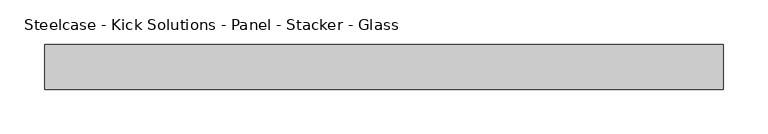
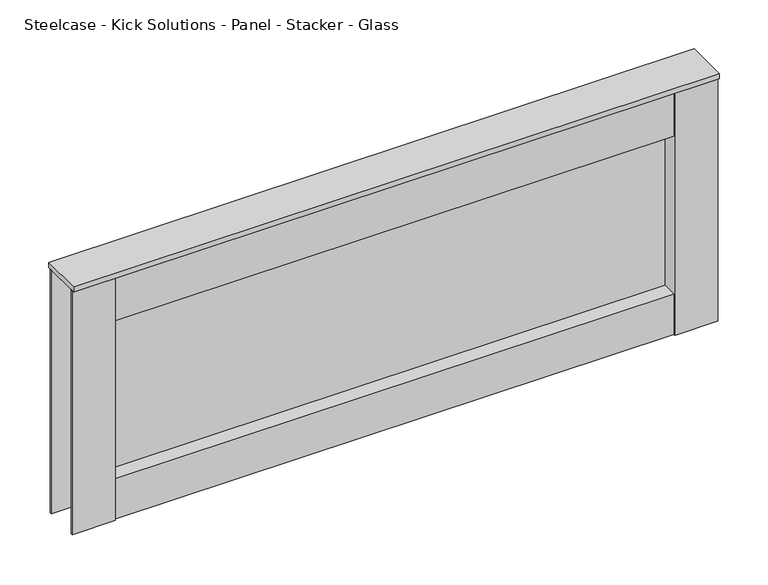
"""IFC4 building model written with IfcOpenShell, lengths in millimetres: furniture geometry, Steelcase - Kick Solutions - Panel - Stacker - Glass : 12H x 30W."""

from ifc_helpers import new_model, si_unit, frame, origin, place, context, project, spatial, polyline, outline, extrude, source, transform, mapped, element, save


def steelcase_kick_solutions_panel_stacker_glass_332c4ef9(model_context):
    return source(origin(), model_context, "Body", "SweptSolid", [
        extrude(outline(polyline([(711.2006661, -5.08), (711.2006661, -45.7200015), (50.8006646, -45.7200015), (50.8006646, -5.08), (711.2006661, -5.08)])), frame((0.0, 0.0, 1066.8), z_axis=(0.0, 0.0, 1.0), x_axis=(1.0, 0.0, 0.0)), (0.0, 0.0, 1.0), 50.6830951),
        extrude(outline(polyline([(711.2006661, -5.08), (711.2006661, -45.7200015), (50.8006646, -45.7200015), (50.8006646, -5.08), (711.2006661, -5.08)])), frame((0.0, 0.0, 1314.45), z_axis=(0.0, 0.0, 1.0), x_axis=(1.0, 0.0, 0.0)), (0.0, 0.0, 1.0), 57.15),
        extrude(outline(polyline([(50.8006646, -3.1743148), (50.8006646, -47.6243142), (0.0, -47.6243142), (0.0, -45.7200015), (47.7526646, -45.7200015), (47.7526646, -5.08), (0.0, -5.08), (0.0, -3.1743148), (50.8006646, -3.1743148)])), frame((0.0, 0.0, 1066.8), z_axis=(0.0, 0.0, 1.0), x_axis=(1.0, 0.0, 0.0)), (0.0, 0.0, 1.0), 304.8),
        extrude(outline(polyline([(711.2006661, -3.1743148), (762.0, -3.1743148), (762.0, -5.08), (714.2486661, -5.08), (714.2486661, -45.7200015), (762.0, -45.7200015), (762.0, -47.6243142), (711.2006661, -47.6243142), (711.2006661, -3.1743148)])), frame((0.0, 0.0, 1066.8), z_axis=(0.0, 0.0, 1.0), x_axis=(1.0, 0.0, 0.0)), (0.0, 0.0, 1.0), 304.8),
        extrude(outline(polyline([(711.2006661, -28.422537), (50.8006646, -28.422537), (50.8006646, -25.4), (711.2006661, -25.4), (711.2006661, -28.422537)])), frame((0.0, 0.0, 1117.4830951), z_axis=(0.0, 0.0, 1.0), x_axis=(1.0, 0.0, 0.0)), (0.0, 0.0, 1.0), 196.9669049),
        extrude(outline(polyline([(762.0, 0.0), (762.0, -50.8000015), (0.0, -50.8000015), (0.0, 0.0), (762.0, 0.0)])), frame((0.0, 0.0, 1371.6), z_axis=(0.0, 0.0, 1.0), x_axis=(1.0, 0.0, 0.0)), (0.0, 0.0, 1.0), 6.35),
    ])


if __name__ == "__main__":
    model = new_model("IFC4")
    model_context = context("Model", 3, world=origin())
    ifc_project = project(units=[si_unit("LENGTHUNIT", "METRE", prefix="MILLI")], contexts=[model_context])
    site = spatial("IfcSite", under=ifc_project)
    building = spatial("IfcBuilding", under=site)
    placement = place(None, origin())
    steelcase_kick_solutions_panel_stacker_glass_shape = steelcase_kick_solutions_panel_stacker_glass_332c4ef9(model_context)
    element("IfcFurniture", 1, ObjectType="Steelcase - Kick Solutions - Panel - Stacker - Glass : 12H x 30W", at=placement, inside=building, context=model_context, shape_type="MappedRepresentation", body=[
        mapped(steelcase_kick_solutions_panel_stacker_glass_shape, transform((0.0, 0.0, 0.0), x_axis=(1.0, 0.0, 0.0), y_axis=(0.0, 1.0, 0.0), z_axis=(0.0, 0.0, 1.0))),
    ])
    save(model, "model.ifc")
